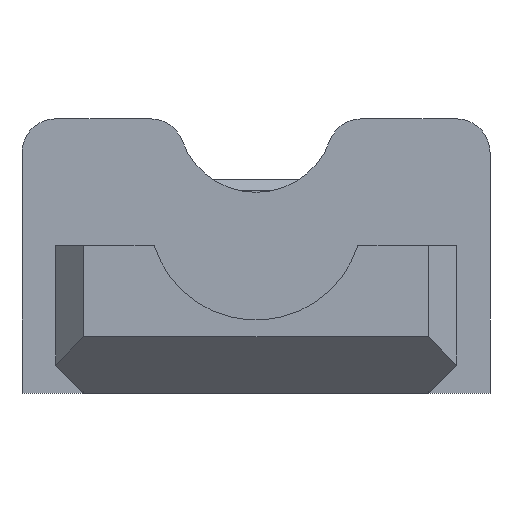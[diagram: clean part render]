
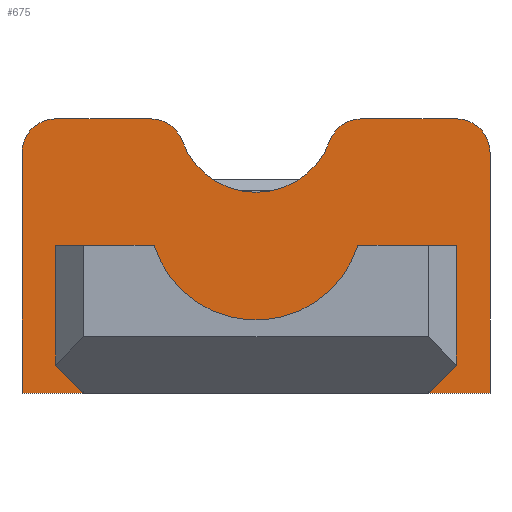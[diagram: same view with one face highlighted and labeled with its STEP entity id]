
A CAD part, left-side view. The second image highlights one B-rep face of the part: STEP entity #675.
In plain terms, the highlighted planar face has unit normal (-1, 0, 0).
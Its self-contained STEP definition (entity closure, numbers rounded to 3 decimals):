
#15=FACE_BOUND('',#96,.T.);
#27=CIRCLE('',#720,3.);
#28=CIRCLE('',#723,3.);
#29=CIRCLE('',#727,3.);
#30=CIRCLE('',#729,7.);
#31=CIRCLE('',#731,3.);
#32=CIRCLE('',#736,9.5);
#59=FACE_OUTER_BOUND('',#95,.T.);
#95=EDGE_LOOP('',(#556,#557,#558,#559,#560,#561,#562,#563,#564,#565));
#96=EDGE_LOOP('',(#566,#567,#568,#569,#570,#571));
#122=LINE('',#964,#205);
#151=LINE('',#1033,#234);
#155=LINE('',#1042,#238);
#156=LINE('',#1044,#239);
#160=LINE('',#1060,#243);
#165=LINE('',#1070,#248);
#167=LINE('',#1074,#250);
#170=LINE('',#1079,#253);
#171=LINE('',#1081,#254);
#172=LINE('',#1084,#255);
#205=VECTOR('',#773,10.);
#234=VECTOR('',#838,10.);
#238=VECTOR('',#848,10.);
#239=VECTOR('',#851,10.);
#243=VECTOR('',#869,10.);
#248=VECTOR('',#876,10.);
#250=VECTOR('',#880,10.);
#253=VECTOR('',#885,10.);
#254=VECTOR('',#886,10.);
#255=VECTOR('',#889,10.);
#286=VERTEX_POINT('',#961);
#287=VERTEX_POINT('',#963);
#307=VERTEX_POINT('',#1026);
#308=VERTEX_POINT('',#1027);
#309=VERTEX_POINT('',#1032);
#310=VERTEX_POINT('',#1036);
#311=VERTEX_POINT('',#1038);
#312=VERTEX_POINT('',#1046);
#313=VERTEX_POINT('',#1050);
#314=VERTEX_POINT('',#1054);
#315=VERTEX_POINT('',#1058);
#316=VERTEX_POINT('',#1059);
#320=VERTEX_POINT('',#1069);
#321=VERTEX_POINT('',#1073);
#323=VERTEX_POINT('',#1080);
#324=VERTEX_POINT('',#1082);
#350=EDGE_CURVE('',#286,#287,#122,.F.);
#382=EDGE_CURVE('',#307,#308,#27,.T.);
#385=EDGE_CURVE('',#309,#308,#151,.T.);
#388=EDGE_CURVE('',#310,#311,#28,.T.);
#390=EDGE_CURVE('',#286,#311,#155,.T.);
#391=EDGE_CURVE('',#307,#287,#156,.T.);
#392=EDGE_CURVE('',#309,#312,#29,.T.);
#394=EDGE_CURVE('',#313,#312,#30,.T.);
#396=EDGE_CURVE('',#313,#314,#31,.T.);
#398=EDGE_CURVE('',#315,#316,#160,.T.);
#403=EDGE_CURVE('',#320,#315,#165,.T.);
#405=EDGE_CURVE('',#321,#320,#167,.T.);
#408=EDGE_CURVE('',#310,#314,#170,.T.);
#409=EDGE_CURVE('',#316,#323,#171,.T.);
#410=EDGE_CURVE('',#323,#324,#32,.T.);
#411=EDGE_CURVE('',#324,#321,#172,.T.);
#556=ORIENTED_EDGE('',*,*,#350,.F.);
#557=ORIENTED_EDGE('',*,*,#390,.T.);
#558=ORIENTED_EDGE('',*,*,#388,.F.);
#559=ORIENTED_EDGE('',*,*,#408,.T.);
#560=ORIENTED_EDGE('',*,*,#396,.F.);
#561=ORIENTED_EDGE('',*,*,#394,.T.);
#562=ORIENTED_EDGE('',*,*,#392,.F.);
#563=ORIENTED_EDGE('',*,*,#385,.T.);
#564=ORIENTED_EDGE('',*,*,#382,.F.);
#565=ORIENTED_EDGE('',*,*,#391,.T.);
#566=ORIENTED_EDGE('',*,*,#403,.T.);
#567=ORIENTED_EDGE('',*,*,#398,.T.);
#568=ORIENTED_EDGE('',*,*,#409,.T.);
#569=ORIENTED_EDGE('',*,*,#410,.T.);
#570=ORIENTED_EDGE('',*,*,#411,.T.);
#571=ORIENTED_EDGE('',*,*,#405,.T.);
#640=PLANE('',#735);
#675=ADVANCED_FACE('',(#59,#15),#640,.F.);
#720=AXIS2_PLACEMENT_3D('',#1028,#832,#833);
#723=AXIS2_PLACEMENT_3D('',#1039,#843,#844);
#727=AXIS2_PLACEMENT_3D('',#1047,#854,#855);
#729=AXIS2_PLACEMENT_3D('',#1051,#859,#860);
#731=AXIS2_PLACEMENT_3D('',#1055,#864,#865);
#735=AXIS2_PLACEMENT_3D('',#1078,#883,#884);
#736=AXIS2_PLACEMENT_3D('',#1083,#887,#888);
#773=DIRECTION('',(0.,-1.,0.));
#832=DIRECTION('center_axis',(1.,0.,0.));
#833=DIRECTION('ref_axis',(0.,0.707,0.707));
#838=DIRECTION('',(0.,1.,0.));
#843=DIRECTION('center_axis',(1.,0.,0.));
#844=DIRECTION('ref_axis',(0.,-0.707,0.707));
#848=DIRECTION('',(0.,0.,1.));
#851=DIRECTION('',(0.,0.,-1.));
#854=DIRECTION('center_axis',(1.,0.,0.));
#855=DIRECTION('ref_axis',(0.,-0.572,0.82));
#859=DIRECTION('center_axis',(1.,0.,0.));
#860=DIRECTION('ref_axis',(0.,1.,0.));
#864=DIRECTION('center_axis',(1.,0.,0.));
#865=DIRECTION('ref_axis',(0.,0.572,0.82));
#869=DIRECTION('',(0.,0.,1.));
#876=DIRECTION('',(0.,1.,0.));
#880=DIRECTION('',(0.,0.,-1.));
#883=DIRECTION('center_axis',(1.,0.,0.));
#884=DIRECTION('ref_axis',(0.,1.,0.));
#885=DIRECTION('',(0.,1.,0.));
#886=DIRECTION('',(0.,-1.,0.));
#887=DIRECTION('center_axis',(-1.,0.,0.));
#888=DIRECTION('ref_axis',(0.,1.,0.));
#889=DIRECTION('',(0.,-1.,0.));
#961=CARTESIAN_POINT('',(96.15,-20.8,-202.15));
#963=CARTESIAN_POINT('',(96.15,20.8,-202.15));
#964=CARTESIAN_POINT('',(96.15,-10.4,-202.15));
#1026=CARTESIAN_POINT('',(96.15,20.8,-180.76));
#1027=CARTESIAN_POINT('',(96.15,17.8,-177.76));
#1028=CARTESIAN_POINT('Origin',(96.15,17.8,-180.76));
#1032=CARTESIAN_POINT('',(96.15,9.382,-177.76));
#1033=CARTESIAN_POINT('',(96.15,-20.8,-177.76));
#1036=CARTESIAN_POINT('',(96.15,-17.8,-177.76));
#1038=CARTESIAN_POINT('',(96.15,-20.8,-180.76));
#1039=CARTESIAN_POINT('Origin',(96.15,-17.8,-180.76));
#1042=CARTESIAN_POINT('',(96.15,-20.8,-183.851));
#1044=CARTESIAN_POINT('',(96.15,20.8,-196.033));
#1046=CARTESIAN_POINT('',(96.15,6.567,-179.722));
#1047=CARTESIAN_POINT('Origin',(96.15,9.382,-180.76));
#1050=CARTESIAN_POINT('',(96.15,-6.567,-179.722));
#1051=CARTESIAN_POINT('Origin',(96.15,0.,-177.298));
#1054=CARTESIAN_POINT('',(96.15,-9.382,-177.76));
#1055=CARTESIAN_POINT('Origin',(96.15,-9.382,-180.76));
#1058=CARTESIAN_POINT('',(96.15,15.3,-202.15));
#1059=CARTESIAN_POINT('',(96.15,15.3,-189.));
#1060=CARTESIAN_POINT('',(96.15,15.3,-196.046));
#1069=CARTESIAN_POINT('',(96.15,-15.3,-202.15));
#1070=CARTESIAN_POINT('',(96.15,0.,-202.15));
#1073=CARTESIAN_POINT('',(96.15,-15.3,-189.));
#1074=CARTESIAN_POINT('',(96.15,-15.3,-189.471));
#1078=CARTESIAN_POINT('Origin',(96.15,-15.3,-190.));
#1079=CARTESIAN_POINT('',(96.15,-20.8,-177.76));
#1080=CARTESIAN_POINT('',(96.15,9.062,-189.));
#1081=CARTESIAN_POINT('',(96.15,0.,-189.));
#1082=CARTESIAN_POINT('',(96.15,-9.062,-189.));
#1083=CARTESIAN_POINT('Origin',(96.15,0.,-186.15));
#1084=CARTESIAN_POINT('',(96.15,0.,-189.));
